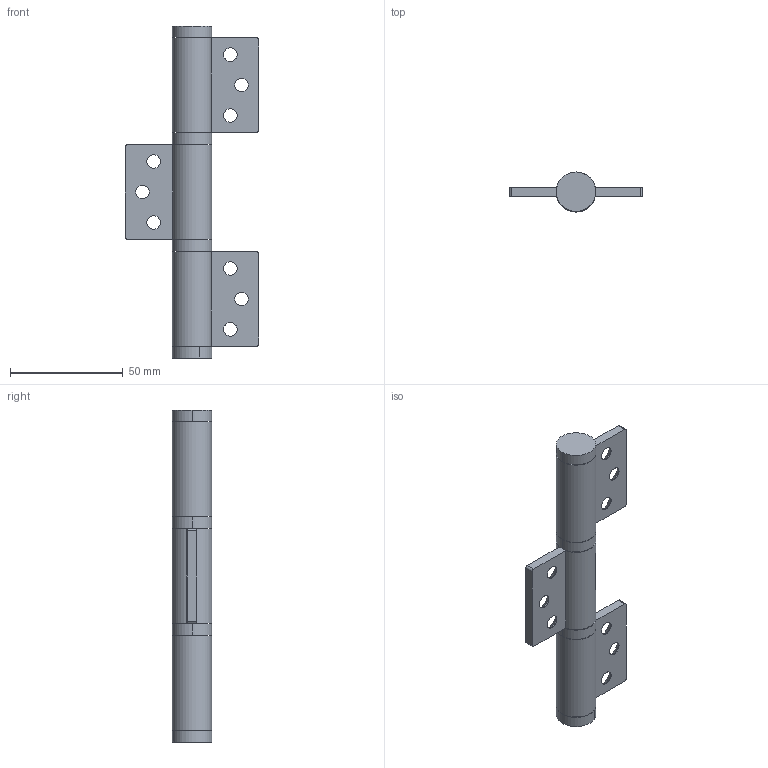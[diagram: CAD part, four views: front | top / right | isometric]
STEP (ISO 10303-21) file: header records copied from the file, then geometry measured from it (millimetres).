
FILE_DESCRIPTION (( 'STEP AP203' ), '1' );
FILE_NAME ('XG02-083.STEP', '2023-12-11T03:18:40', ( '' ), ( '' ), 'SwSTEP 2.0', 'SolidWorks 2020', '' );
FILE_SCHEMA (( 'CONFIG_CONTROL_DESIGN' ));
Length unit declared in the file: millimetre
Products named in the file (3): XG02-083; 种赽; XG02-083-1
Assembly tree (7 placements, depth 2):
  XG02-083
    XG02-083-1  x3
    种赽  x4
Bounding box: 59 x 17.5 x 147.2 mm (x, y, z)
Volume: 36816.9 mm3; surface area: 22431.4 mm2
Topology: 7 solids, 7 shells, 97 faces, 219 edges, 140 vertices
Faces by surface type: cylinder 49, plane 30, cone 18
Entity records: 1338 total; most frequent: DIRECTION 185, CARTESIAN_POINT 153, ORIENTED_EDGE 138, AXIS2_PLACEMENT_3D 76, EDGE_CURVE 69, VERTEX_POINT 44, EDGE_LOOP 37, CIRCLE 36
